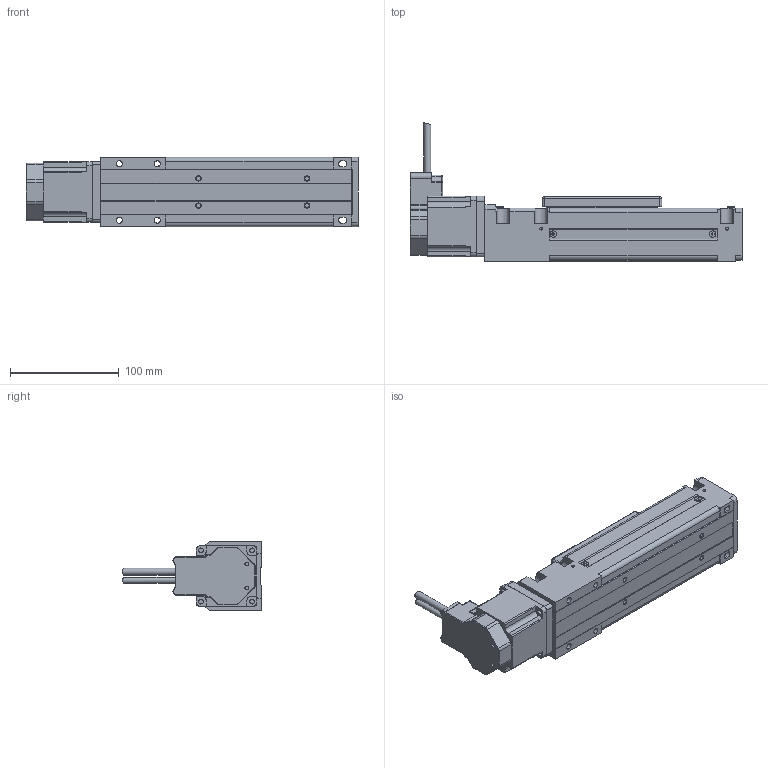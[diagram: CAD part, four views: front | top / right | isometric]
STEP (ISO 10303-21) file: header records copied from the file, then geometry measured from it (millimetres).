
FILE_DESCRIPTION(/* description */ ('Alibre Inc.'),/* implementation_level */ '2;1');
FILE_NAME(/* name */ 'export0',/* time_stamp */ '2010-04-01T10:29:04-04:00',/* author */ (''),/* organization */ (''),/* preprocessor_version */ 'ST-DEVELOPER v10',/* originating_system */ 'Alibre',/* authorisation */ '');
FILE_SCHEMA (('CONFIG_CONTROL_DESIGN'));
Length unit declared in the file: millimetre
Products named in the file (6): 1; 2; ID_1; ID_2; ID_3
Bounding box: 306 x 127.68 x 64 mm (x, y, z)
Volume: 553238.3 mm3; surface area: 175437.4 mm2
Topology: 4 solids, 4 shells, 784 faces, 2076 edges, 1306 vertices
Faces by surface type: plane 490, cylinder 200, cone 62, torus 28, sphere 4
Full cylindrical faces by diameter (mm): 3.5 x2, 4.5 x4, 5.5 x1, 6.5 x1, 8 x1, 38.13 x1, 38.15 x1
Entity records: 24130 total; most frequent: CARTESIAN_POINT 4410, ORIENTED_EDGE 4084, DIRECTION 3578, EDGE_CURVE 2042, VECTOR 1498, LINE 1498, VERTEX_POINT 1299, AXIS2_PLACEMENT_3D 1295
